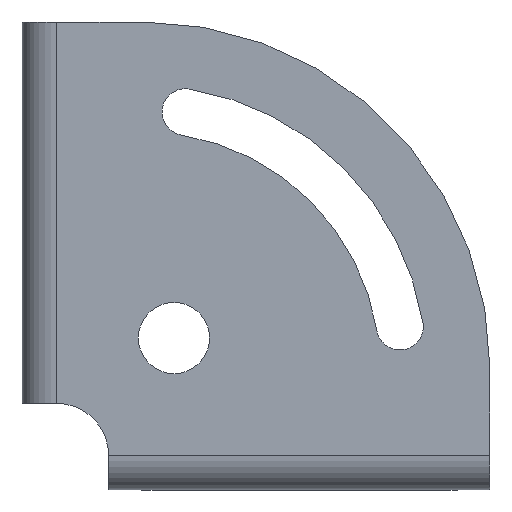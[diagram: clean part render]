
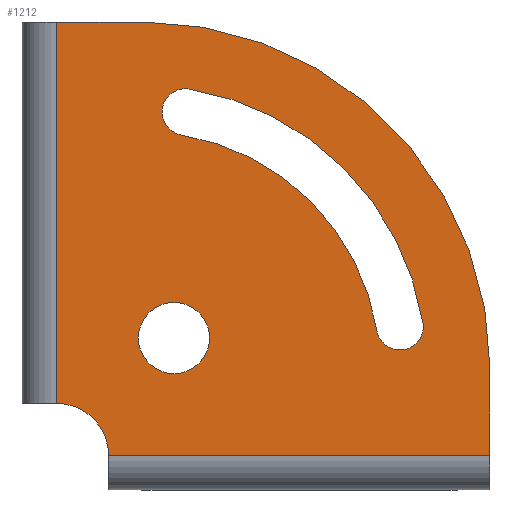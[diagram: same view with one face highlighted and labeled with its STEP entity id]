
A CAD part, front view. The second image highlights one B-rep face of the part: STEP entity #1212.
In plain terms, the highlighted planar face has unit normal (0, -1, 0).
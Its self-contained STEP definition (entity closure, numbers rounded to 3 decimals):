
#17 = CIRCLE ( 'NONE', #480, 6. ) ;
#19 = ORIENTED_EDGE ( 'NONE', *, *, #316, .T. ) ;
#22 = AXIS2_PLACEMENT_3D ( 'NONE', #916, #179, #811 ) ;
#32 = PLANE ( 'NONE',  #62 ) ;
#40 = VERTEX_POINT ( 'NONE', #788 ) ;
#62 = AXIS2_PLACEMENT_3D ( 'NONE', #1279, #761, #764 ) ;
#75 = LINE ( 'NONE', #380, #386 ) ;
#89 = CARTESIAN_POINT ( 'NONE',  ( 2., -2., 0. ) ) ;
#94 = EDGE_CURVE ( 'NONE', #232, #348, #1075, .T. ) ;
#96 = DIRECTION ( 'NONE',  ( 0., 0., 1. ) ) ;
#103 = CARTESIAN_POINT ( 'NONE',  ( 2., -2., 6. ) ) ;
#120 = EDGE_LOOP ( 'NONE', ( #1094, #986 ) ) ;
#129 = ORIENTED_EDGE ( 'NONE', *, *, #1208, .T. ) ;
#139 = DIRECTION ( 'NONE',  ( 0., 1., 0. ) ) ;
#143 = LINE ( 'NONE', #89, #951 ) ;
#156 = CARTESIAN_POINT ( 'NONE',  ( 2., -2., 50. ) ) ;
#166 = DIRECTION ( 'NONE',  ( 0., 0., -1. ) ) ;
#175 = VERTEX_POINT ( 'NONE', #616 ) ;
#179 = DIRECTION ( 'NONE',  ( 0., 1., 0. ) ) ;
#187 = EDGE_CURVE ( 'NONE', #321, #213, #143, .T. ) ;
#202 = EDGE_CURVE ( 'NONE', #1306, #232, #1222, .T. ) ;
#203 = DIRECTION ( 'NONE',  ( 0., 1., 0. ) ) ;
#213 = VERTEX_POINT ( 'NONE', #827 ) ;
#214 = AXIS2_PLACEMENT_3D ( 'NONE', #1345, #726, #96 ) ;
#232 = VERTEX_POINT ( 'NONE', #1041 ) ;
#238 = EDGE_CURVE ( 'NONE', #1261, #1006, #912, .T. ) ;
#247 = ORIENTED_EDGE ( 'NONE', *, *, #576, .T. ) ;
#248 = VERTEX_POINT ( 'NONE', #103 ) ;
#257 = CARTESIAN_POINT ( 'NONE',  ( 52., -2., 10. ) ) ;
#258 = FACE_BOUND ( 'NONE', #120, .T. ) ;
#267 = ORIENTED_EDGE ( 'NONE', *, *, #187, .T. ) ;
#283 = DIRECTION ( 'NONE',  ( 0., -1., 0. ) ) ;
#316 = EDGE_CURVE ( 'NONE', #248, #321, #17, .T. ) ;
#321 = VERTEX_POINT ( 'NONE', #844 ) ;
#322 = CARTESIAN_POINT ( 'NONE',  ( 15.536, -2., 13.536 ) ) ;
#337 = DIRECTION ( 'NONE',  ( 0., -1., 0. ) ) ;
#348 = VERTEX_POINT ( 'NONE', #429 ) ;
#351 = CARTESIAN_POINT ( 'NONE',  ( 44.269, -2., 15.293 ) ) ;
#380 = CARTESIAN_POINT ( 'NONE',  ( 52., -2., 0. ) ) ;
#386 = VECTOR ( 'NONE', #1102, 1000. ) ;
#389 = AXIS2_PLACEMENT_3D ( 'NONE', #322, #1053, #427 ) ;
#422 = CIRCLE ( 'NONE', #22, 2.7 ) ;
#427 = DIRECTION ( 'NONE',  ( 0., 0., 1. ) ) ;
#429 = CARTESIAN_POINT ( 'NONE',  ( 16.419, -2., 36.94 ) ) ;
#432 = ORIENTED_EDGE ( 'NONE', *, *, #589, .T. ) ;
#440 = CARTESIAN_POINT ( 'NONE',  ( 12., -2., 10. ) ) ;
#453 = EDGE_CURVE ( 'NONE', #40, #1067, #659, .T. ) ;
#480 = AXIS2_PLACEMENT_3D ( 'NONE', #1164, #541, #1266 ) ;
#488 = CARTESIAN_POINT ( 'NONE',  ( 2., -2., 50. ) ) ;
#503 = LINE ( 'NONE', #775, #754 ) ;
#541 = DIRECTION ( 'NONE',  ( 0., 1., 0. ) ) ;
#553 = DIRECTION ( 'NONE',  ( 0., 0., 1. ) ) ;
#559 = ORIENTED_EDGE ( 'NONE', *, *, #202, .T. ) ;
#576 = EDGE_CURVE ( 'NONE', #348, #1261, #422, .T. ) ;
#580 = EDGE_LOOP ( 'NONE', ( #19, #267, #432, #129, #940, #1096 ) ) ;
#589 = EDGE_CURVE ( 'NONE', #213, #1350, #75, .T. ) ;
#616 = CARTESIAN_POINT ( 'NONE',  ( 12., -2., 50. ) ) ;
#635 = ORIENTED_EDGE ( 'NONE', *, *, #238, .T. ) ;
#644 = CIRCLE ( 'NONE', #389, 4.1 ) ;
#651 = EDGE_CURVE ( 'NONE', #749, #248, #876, .T. ) ;
#659 = CIRCLE ( 'NONE', #1069, 4.1 ) ;
#665 = CARTESIAN_POINT ( 'NONE',  ( 16.856, -2., 42.304 ) ) ;
#726 = DIRECTION ( 'NONE',  ( 0., 1., 0. ) ) ;
#734 = EDGE_CURVE ( 'NONE', #175, #749, #503, .T. ) ;
#749 = VERTEX_POINT ( 'NONE', #156 ) ;
#750 = AXIS2_PLACEMENT_3D ( 'NONE', #966, #337, #1068 ) ;
#754 = VECTOR ( 'NONE', #787, 1000. ) ;
#761 = DIRECTION ( 'NONE',  ( 0., -1., 0. ) ) ;
#764 = DIRECTION ( 'NONE',  ( 0., 0., -1. ) ) ;
#769 = CARTESIAN_POINT ( 'NONE',  ( 15.536, -2., 13.536 ) ) ;
#775 = CARTESIAN_POINT ( 'NONE',  ( 12., -2., 50. ) ) ;
#778 = CIRCLE ( 'NONE', #750, 40. ) ;
#787 = DIRECTION ( 'NONE',  ( -1., 0., 0. ) ) ;
#788 = CARTESIAN_POINT ( 'NONE',  ( 15.536, -2., 9.436 ) ) ;
#806 = CIRCLE ( 'NONE', #1165, 32.7 ) ;
#811 = DIRECTION ( 'NONE',  ( 0., 0., 1. ) ) ;
#819 = DIRECTION ( 'NONE',  ( 1., 0., 0. ) ) ;
#827 = CARTESIAN_POINT ( 'NONE',  ( 52., -2., 0. ) ) ;
#832 = CARTESIAN_POINT ( 'NONE',  ( 16.856, -2., 39.604 ) ) ;
#840 = CARTESIAN_POINT ( 'NONE',  ( 15.536, -2., 17.636 ) ) ;
#844 = CARTESIAN_POINT ( 'NONE',  ( 8., -2., 0. ) ) ;
#848 = VECTOR ( 'NONE', #166, 1000. ) ;
#871 = DIRECTION ( 'NONE',  ( 0., 0., 1. ) ) ;
#876 = LINE ( 'NONE', #488, #848 ) ;
#899 = AXIS2_PLACEMENT_3D ( 'NONE', #904, #283, #1014 ) ;
#904 = CARTESIAN_POINT ( 'NONE',  ( 12., -2., 10. ) ) ;
#912 = CIRCLE ( 'NONE', #952, 2.7 ) ;
#916 = CARTESIAN_POINT ( 'NONE',  ( 16.856, -2., 39.604 ) ) ;
#939 = DIRECTION ( 'NONE',  ( 0., 0., 1. ) ) ;
#940 = ORIENTED_EDGE ( 'NONE', *, *, #734, .T. ) ;
#951 = VECTOR ( 'NONE', #819, 1000. ) ;
#952 = AXIS2_PLACEMENT_3D ( 'NONE', #832, #203, #939 ) ;
#966 = CARTESIAN_POINT ( 'NONE',  ( 12., -2., 10. ) ) ;
#986 = ORIENTED_EDGE ( 'NONE', *, *, #453, .T. ) ;
#1006 = VERTEX_POINT ( 'NONE', #1246 ) ;
#1014 = DIRECTION ( 'NONE',  ( 0., 0., -1. ) ) ;
#1021 = ORIENTED_EDGE ( 'NONE', *, *, #1200, .T. ) ;
#1026 = FACE_OUTER_BOUND ( 'NONE', #580, .T. ) ;
#1041 = CARTESIAN_POINT ( 'NONE',  ( 38.94, -2., 14.419 ) ) ;
#1053 = DIRECTION ( 'NONE',  ( 0., 1., 0. ) ) ;
#1067 = VERTEX_POINT ( 'NONE', #840 ) ;
#1068 = DIRECTION ( 'NONE',  ( 0., 0., -1. ) ) ;
#1069 = AXIS2_PLACEMENT_3D ( 'NONE', #769, #139, #871 ) ;
#1075 = CIRCLE ( 'NONE', #899, 27.3 ) ;
#1094 = ORIENTED_EDGE ( 'NONE', *, *, #1101, .T. ) ;
#1096 = ORIENTED_EDGE ( 'NONE', *, *, #651, .T. ) ;
#1101 = EDGE_CURVE ( 'NONE', #1067, #40, #644, .T. ) ;
#1102 = DIRECTION ( 'NONE',  ( 0., 0., 1. ) ) ;
#1111 = EDGE_LOOP ( 'NONE', ( #247, #635, #1021, #559, #1127 ) ) ;
#1127 = ORIENTED_EDGE ( 'NONE', *, *, #94, .T. ) ;
#1164 = CARTESIAN_POINT ( 'NONE',  ( 2., -2., 0. ) ) ;
#1165 = AXIS2_PLACEMENT_3D ( 'NONE', #440, #1173, #553 ) ;
#1173 = DIRECTION ( 'NONE',  ( 0., 1., 0. ) ) ;
#1200 = EDGE_CURVE ( 'NONE', #1006, #1306, #806, .T. ) ;
#1208 = EDGE_CURVE ( 'NONE', #1350, #175, #778, .T. ) ;
#1212 = ADVANCED_FACE ( 'NONE', ( #258, #1026, #1333 ), #32, .T. ) ;
#1222 = CIRCLE ( 'NONE', #214, 2.7 ) ;
#1246 = CARTESIAN_POINT ( 'NONE',  ( 17.293, -2., 42.269 ) ) ;
#1261 = VERTEX_POINT ( 'NONE', #665 ) ;
#1266 = DIRECTION ( 'NONE',  ( 0., 0., 1. ) ) ;
#1279 = CARTESIAN_POINT ( 'NONE',  ( 12., -2., 10. ) ) ;
#1306 = VERTEX_POINT ( 'NONE', #351 ) ;
#1333 = FACE_BOUND ( 'NONE', #1111, .T. ) ;
#1345 = CARTESIAN_POINT ( 'NONE',  ( 41.604, -2., 14.856 ) ) ;
#1350 = VERTEX_POINT ( 'NONE', #257 ) ;
